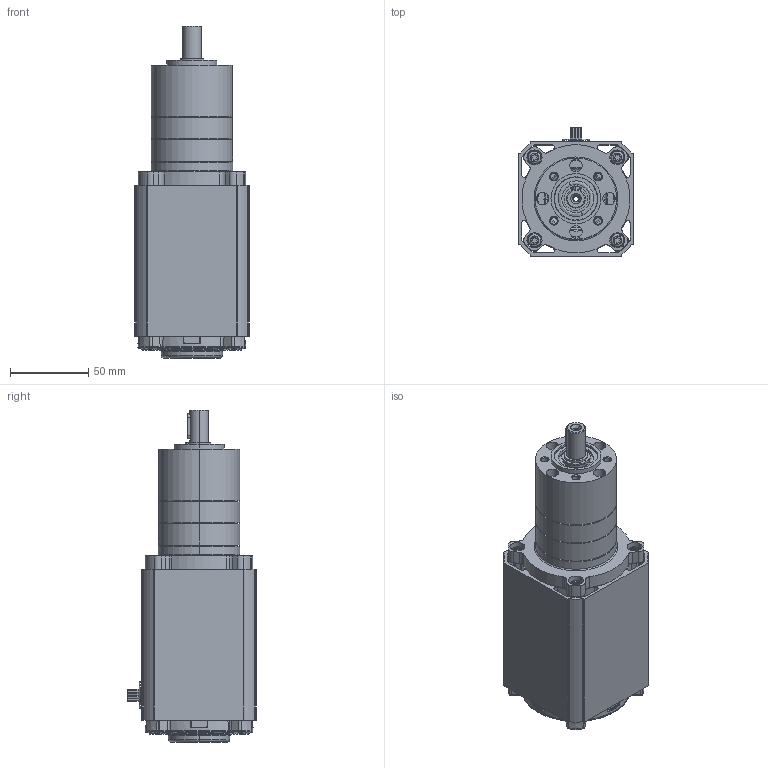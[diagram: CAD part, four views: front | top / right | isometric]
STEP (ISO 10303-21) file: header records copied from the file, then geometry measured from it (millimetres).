
FILE_DESCRIPTION (( 'STEP AP214' ), '1' );
FILE_NAME ('BL6520-PL5200i_2S.STEP', '2013-03-04T13:34:36', ( '' ), ( '' ), 'SwSTEP 2.0', 'SolidWorks 2013', '' );
FILE_SCHEMA (( 'AUTOMOTIVE_DESIGN' ));
Length unit declared in the file: inch
Products named in the file (1): BL6520-PL5200i_2S
Bounding box: 73.36 x 82.37 x 212.49 mm (x, y, z)
Surface area: 97692.7 mm2 (no closed solid volume)
Topology: 0 solids, 58 shells, 930 faces, 3185 edges, 2262 vertices
Faces by surface type: cylinder 387, plane 266, torus 100, cone 95, bspline 74, sphere 8
Entity records: 51992 total; most frequent: CARTESIAN_POINT 12974, DIRECTION 5674, ORIENTED_EDGE 5176, EDGE_CURVE 3178, VERTEX_POINT 2262, AXIS2_PLACEMENT_3D 2142, VECTOR 1390, LINE 1390
